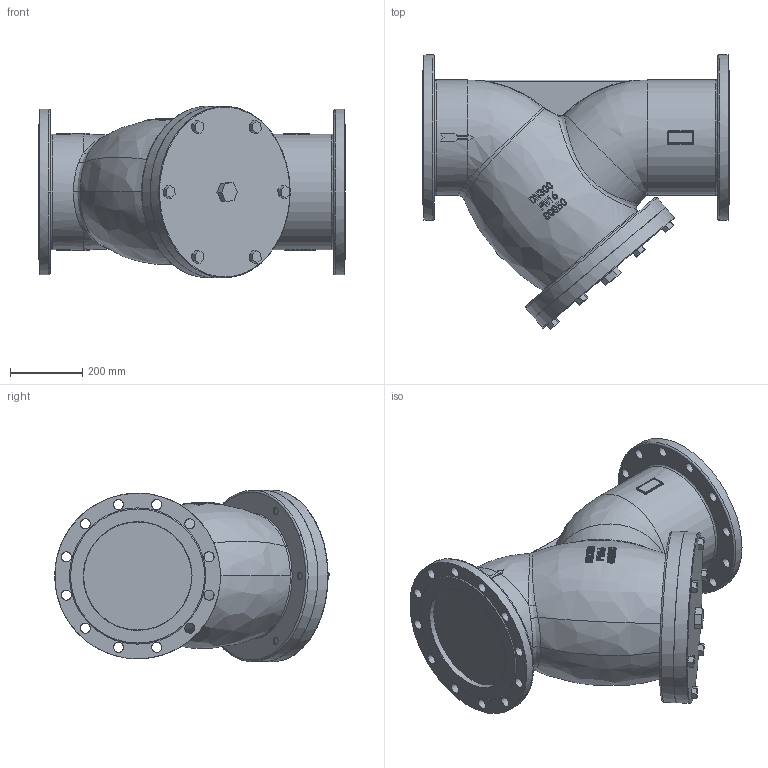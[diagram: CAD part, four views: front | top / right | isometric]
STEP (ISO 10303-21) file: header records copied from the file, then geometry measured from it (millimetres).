
FILE_DESCRIPTION (( 'STEP AP214' ), '1' );
FILE_NAME ('DN300.STEP', '2026-09-13T12:07:18', ( '' ), ( '' ), 'SwSTEP 2.0', 'SolidWorks 2024', '' );
FILE_SCHEMA (( 'AUTOMOTIVE_DESIGN' ));
Length unit declared in the file: millimetre
Products named in the file (1): DN300
Bounding box: 850 x 761.8 x 476 mm (x, y, z)
Volume: 106531130.3 mm3; surface area: 2534103.6 mm2
Topology: 1 solids, 4 shells, 470 faces, 1272 edges, 850 vertices
Faces by surface type: plane 200, bspline 167, cylinder 91, torus 8, cone 4
Full cylindrical faces by diameter (mm): 21 x12, 22 x6, 28 x24, 45 x1, 300 x2, 320 x2, 336 x1, 460 x2, 476 x2
Entity records: 61982 total; most frequent: CARTESIAN_POINT 48020, ORIENTED_EDGE 2310, DIRECTION 1257, EDGE_CURVE 1155, VERTEX_POINT 827, EDGE_LOOP 664, B_SPLINE_CURVE_WITH_KNOTS 603, FACE_OUTER_BOUND 539
